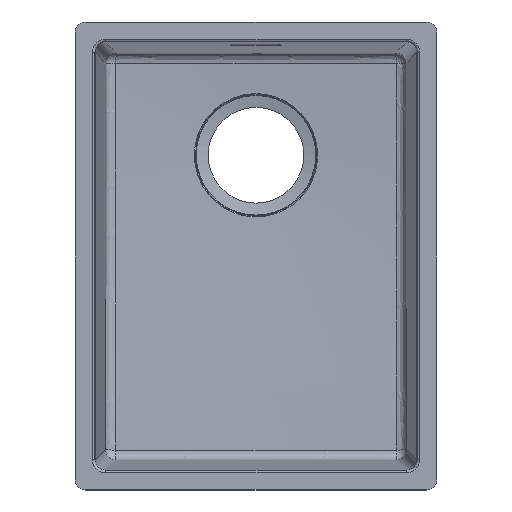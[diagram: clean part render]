
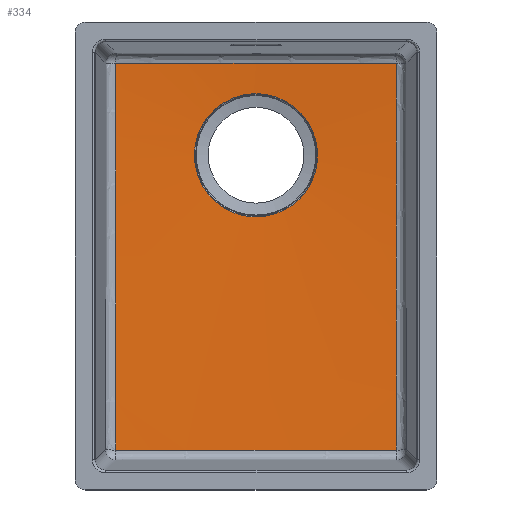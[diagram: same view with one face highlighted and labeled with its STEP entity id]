
A CAD part, top view. The second image highlights one B-rep face of the part: STEP entity #334.
In plain terms, the highlighted conical face has half-angle 87.5 degrees and reference radius 57 mm.
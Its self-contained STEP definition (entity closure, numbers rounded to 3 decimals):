
#87=CONICAL_SURFACE('',#2651,57.,87.5);
#234=B_SPLINE_CURVE_WITH_KNOTS('',3,(#4856,#4857,#4858,#4859,#4860,#4861),
 .UNSPECIFIED.,.F.,.F.,(4,2,4),(0.,0.5,1.),.UNSPECIFIED.);
#235=B_SPLINE_CURVE_WITH_KNOTS('',3,(#4864,#4865,#4866,#4867,#4868,#4869,
#4870,#4871,#4872,#4873),.UNSPECIFIED.,.F.,.F.,(4,2,2,2,4),(0.,0.25,0.5,
0.75,1.),.UNSPECIFIED.);
#236=B_SPLINE_CURVE_WITH_KNOTS('',3,(#4875,#4876,#4877,#4878,#4879,#4880),
 .UNSPECIFIED.,.F.,.F.,(4,2,4),(0.,0.5,1.),.UNSPECIFIED.);
#237=B_SPLINE_CURVE_WITH_KNOTS('',3,(#4882,#4883,#4884,#4885,#4886,#4887,
#4888,#4889,#4890,#4891),.UNSPECIFIED.,.F.,.F.,(4,2,2,2,4),(0.,0.25,0.5,
0.75,1.),.UNSPECIFIED.);
#257=FACE_BOUND('',#654,.T.);
#258=FACE_BOUND('',#655,.T.);
#334=ADVANCED_FACE('',(#257,#258),#87,.F.);
#654=EDGE_LOOP('',(#1360));
#655=EDGE_LOOP('',(#1361,#1362,#1363,#1364));
#1360=ORIENTED_EDGE('',*,*,#2250,.T.);
#1361=ORIENTED_EDGE('',*,*,#2251,.T.);
#1362=ORIENTED_EDGE('',*,*,#2252,.T.);
#1363=ORIENTED_EDGE('',*,*,#2253,.T.);
#1364=ORIENTED_EDGE('',*,*,#2254,.T.);
#1978=VERTEX_POINT('',#4855);
#1979=VERTEX_POINT('',#4862);
#1980=VERTEX_POINT('',#4863);
#1981=VERTEX_POINT('',#4874);
#1982=VERTEX_POINT('',#4881);
#2250=EDGE_CURVE('',#1978,#1978,#2446,.T.);
#2251=EDGE_CURVE('',#1979,#1980,#234,.T.);
#2252=EDGE_CURVE('',#1980,#1981,#235,.T.);
#2253=EDGE_CURVE('',#1981,#1982,#236,.T.);
#2254=EDGE_CURVE('',#1982,#1979,#237,.T.);
#2446=CIRCLE('',#2650,57.956);
#2650=AXIS2_PLACEMENT_3D('',#4854,#3137,#3138);
#2651=AXIS2_PLACEMENT_3D('',#4892,#3139,#3140);
#3137=DIRECTION('',(0.,0.,-1.));
#3138=DIRECTION('',(-1.,0.,0.));
#3139=DIRECTION('',(0.,0.,1.));
#3140=DIRECTION('',(1.,0.,0.));
#4854=CARTESIAN_POINT('',(421.5,516.5,80.042));
#4855=CARTESIAN_POINT('',(363.544,516.5,80.042));
#4856=CARTESIAN_POINT('',(289.562,239.356,90.913));
#4857=CARTESIAN_POINT('',(333.538,239.382,90.087));
#4858=CARTESIAN_POINT('',(377.521,239.393,89.61));
#4859=CARTESIAN_POINT('',(465.485,239.393,89.61));
#4860=CARTESIAN_POINT('',(509.463,239.382,90.087));
#4861=CARTESIAN_POINT('',(553.438,239.356,90.913));
#4862=CARTESIAN_POINT('',(289.562,239.356,90.913));
#4863=CARTESIAN_POINT('',(553.438,239.356,90.913));
#4864=CARTESIAN_POINT('',(553.438,239.356,90.913));
#4865=CARTESIAN_POINT('',(553.382,269.652,89.718));
#4866=CARTESIAN_POINT('',(553.331,299.95,88.554));
#4867=CARTESIAN_POINT('',(553.253,360.55,86.392));
#4868=CARTESIAN_POINT('',(553.227,390.851,85.387));
#4869=CARTESIAN_POINT('',(553.21,451.465,83.835));
#4870=CARTESIAN_POINT('',(553.218,481.779,83.31));
#4871=CARTESIAN_POINT('',(553.219,542.429,83.221));
#4872=CARTESIAN_POINT('',(553.21,572.766,83.666));
#4873=CARTESIAN_POINT('',(553.216,603.091,84.394));
#4874=CARTESIAN_POINT('',(553.216,603.091,84.394));
#4875=CARTESIAN_POINT('',(553.216,603.091,84.394));
#4876=CARTESIAN_POINT('',(509.328,603.049,82.791));
#4877=CARTESIAN_POINT('',(465.438,603.098,81.293));
#4878=CARTESIAN_POINT('',(377.603,603.098,81.292));
#4879=CARTESIAN_POINT('',(333.683,603.049,82.791));
#4880=CARTESIAN_POINT('',(289.784,603.091,84.394));
#4881=CARTESIAN_POINT('',(289.784,603.091,84.394));
#4882=CARTESIAN_POINT('',(289.784,603.091,84.394));
#4883=CARTESIAN_POINT('',(289.79,572.776,83.666));
#4884=CARTESIAN_POINT('',(289.781,542.459,83.222));
#4885=CARTESIAN_POINT('',(289.782,481.824,83.309));
#4886=CARTESIAN_POINT('',(289.79,451.503,83.834));
#4887=CARTESIAN_POINT('',(289.773,390.874,85.386));
#4888=CARTESIAN_POINT('',(289.747,360.567,86.392));
#4889=CARTESIAN_POINT('',(289.669,299.958,88.554));
#4890=CARTESIAN_POINT('',(289.618,269.656,89.717));
#4891=CARTESIAN_POINT('',(289.562,239.356,90.913));
#4892=CARTESIAN_POINT('',(421.5,516.5,80.));
